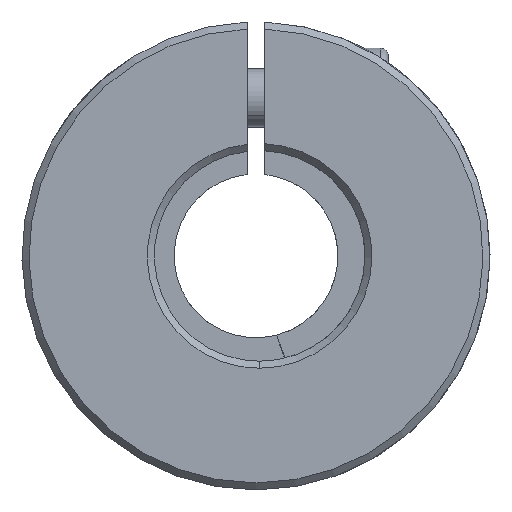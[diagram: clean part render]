
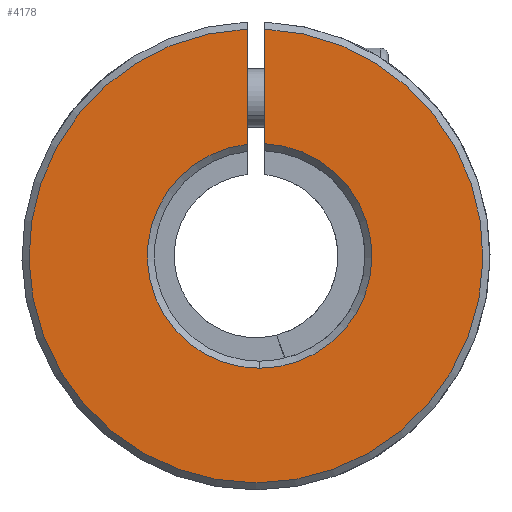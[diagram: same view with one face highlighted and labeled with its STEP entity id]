
A CAD part, front view. The second image highlights one B-rep face of the part: STEP entity #4178.
In plain terms, the highlighted planar face has unit normal (0, -1, 0).
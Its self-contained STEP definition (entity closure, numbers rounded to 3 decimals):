
#43 = EDGE_CURVE ( 'NONE', #2251, #1757, #1648, .T. ) ;
#265 = CARTESIAN_POINT ( 'NONE',  ( 0., -30., 0. ) ) ;
#314 = DIRECTION ( 'NONE',  ( 0., 1., 0. ) ) ;
#443 = ORIENTED_EDGE ( 'NONE', *, *, #5791, .T. ) ;
#545 = CIRCLE ( 'NONE', #3832, 19.4 ) ;
#643 = DIRECTION ( 'NONE',  ( 0., 0., -1. ) ) ;
#1093 = CIRCLE ( 'NONE', #2431, 9.6 ) ;
#1275 = EDGE_CURVE ( 'NONE', #5739, #2585, #5059, .T. ) ;
#1440 = CARTESIAN_POINT ( 'NONE',  ( -0.75, -30., 9.541 ) ) ;
#1608 = CARTESIAN_POINT ( 'NONE',  ( 0., -30., 0. ) ) ;
#1648 = LINE ( 'NONE', #2027, #3014 ) ;
#1757 = VERTEX_POINT ( 'NONE', #4601 ) ;
#2017 = PLANE ( 'NONE',  #2347 ) ;
#2027 = CARTESIAN_POINT ( 'NONE',  ( 0.75, -30., -6. ) ) ;
#2251 = VERTEX_POINT ( 'NONE', #5389 ) ;
#2347 = AXIS2_PLACEMENT_3D ( 'NONE', #265, #3861, #3802 ) ;
#2360 = DIRECTION ( 'NONE',  ( 0., 0., 1. ) ) ;
#2431 = AXIS2_PLACEMENT_3D ( 'NONE', #3012, #314, #2553 ) ;
#2553 = DIRECTION ( 'NONE',  ( 0., 0., 1. ) ) ;
#2585 = VERTEX_POINT ( 'NONE', #4439 ) ;
#2839 = CARTESIAN_POINT ( 'NONE',  ( -0.75, -30., -6. ) ) ;
#2866 = AXIS2_PLACEMENT_3D ( 'NONE', #4639, #4959, #2360 ) ;
#2958 = DIRECTION ( 'NONE',  ( 0., -1., 0. ) ) ;
#2979 = VECTOR ( 'NONE', #4619, 1000. ) ;
#2992 = FACE_OUTER_BOUND ( 'NONE', #3633, .T. ) ;
#3012 = CARTESIAN_POINT ( 'NONE',  ( 0.314, -30., 0. ) ) ;
#3014 = VECTOR ( 'NONE', #643, 1000. ) ;
#3118 = ORIENTED_EDGE ( 'NONE', *, *, #4149, .T. ) ;
#3194 = EDGE_CURVE ( 'NONE', #1757, #5319, #1093, .T. ) ;
#3236 = ORIENTED_EDGE ( 'NONE', *, *, #43, .T. ) ;
#3456 = DIRECTION ( 'NONE',  ( 0., 0., 1. ) ) ;
#3633 = EDGE_LOOP ( 'NONE', ( #3236, #3657, #443, #4306, #3118 ) ) ;
#3657 = ORIENTED_EDGE ( 'NONE', *, *, #3194, .T. ) ;
#3802 = DIRECTION ( 'NONE',  ( 0., 0., 1. ) ) ;
#3832 = AXIS2_PLACEMENT_3D ( 'NONE', #1608, #2958, #3456 ) ;
#3861 = DIRECTION ( 'NONE',  ( 0., 1., 0. ) ) ;
#4149 = EDGE_CURVE ( 'NONE', #2585, #2251, #545, .T. ) ;
#4178 = ADVANCED_FACE ( 'NONE', ( #2992 ), #2017, .F. ) ;
#4306 = ORIENTED_EDGE ( 'NONE', *, *, #1275, .T. ) ;
#4439 = CARTESIAN_POINT ( 'NONE',  ( -0.75, -30., 19.385 ) ) ;
#4601 = CARTESIAN_POINT ( 'NONE',  ( 0.75, -30., 9.59 ) ) ;
#4619 = DIRECTION ( 'NONE',  ( 0., 0., 1. ) ) ;
#4639 = CARTESIAN_POINT ( 'NONE',  ( 0.314, -30., 0. ) ) ;
#4959 = DIRECTION ( 'NONE',  ( 0., 1., 0. ) ) ;
#5059 = LINE ( 'NONE', #2839, #2979 ) ;
#5319 = VERTEX_POINT ( 'NONE', #5482 ) ;
#5389 = CARTESIAN_POINT ( 'NONE',  ( 0.75, -30., 19.385 ) ) ;
#5482 = CARTESIAN_POINT ( 'NONE',  ( 0.314, -30., -9.6 ) ) ;
#5575 = CIRCLE ( 'NONE', #2866, 9.6 ) ;
#5739 = VERTEX_POINT ( 'NONE', #1440 ) ;
#5791 = EDGE_CURVE ( 'NONE', #5319, #5739, #5575, .T. ) ;
